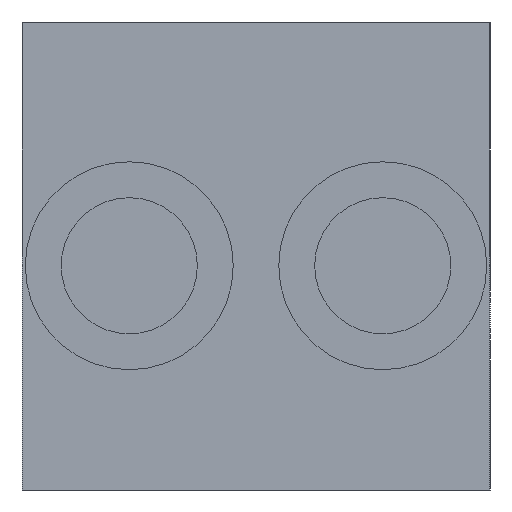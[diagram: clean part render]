
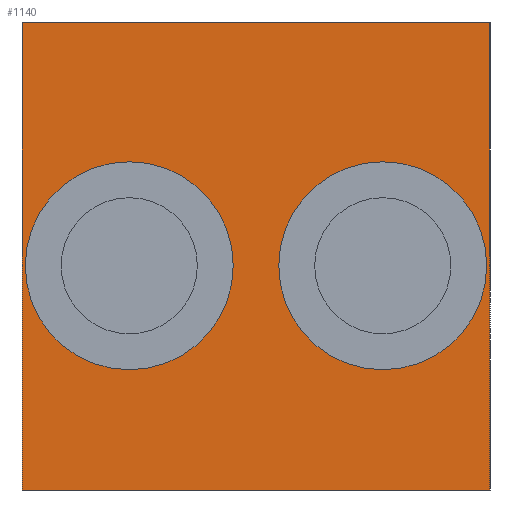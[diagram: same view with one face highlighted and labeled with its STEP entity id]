
A CAD part, left-side view. The second image highlights one B-rep face of the part: STEP entity #1140.
In plain terms, the highlighted planar face has unit normal (-1, 0, 0).
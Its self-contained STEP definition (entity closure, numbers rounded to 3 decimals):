
#1140=ADVANCED_FACE('', (#1150,#1160,#1170), #1180, .T.);
#4220=AXIS2_PLACEMENT_3D('Ax2Pl3d', #4230, #4240, #4250);
#4260=AXIS2_PLACEMENT_3D('Ax2Pl3d', #4270, #4280, #4290);
#4300=AXIS2_PLACEMENT_3D('Ax2Pl3d', #4310, #4320, #4330);
#5400=CARTESIAN_POINT('', (0.,0.,0.));
#5450=CARTESIAN_POINT('', (0.,0.,72.));
#5460=CARTESIAN_POINT('', (0.,0.,72.));
#5590=CARTESIAN_POINT('', (0.,0.,0.));
#5600=CARTESIAN_POINT('', (0.,72.,0.));
#4230=CARTESIAN_POINT('HicPkt', (0.,55.5,34.5));
#5800=CARTESIAN_POINT('', (0.,71.5,34.5));
#4270=CARTESIAN_POINT('HicPkt', (0.,0.,0.));
#5810=CARTESIAN_POINT('', (0.,0.,72.));
#5820=CARTESIAN_POINT('', (0.,72.,72.));
#5830=CARTESIAN_POINT('', (0.,72.,72.));
#4310=CARTESIAN_POINT('HicPkt', (0.,16.5,34.5));
#5840=CARTESIAN_POINT('', (0.,32.5,34.5));
#6270=CIRCLE('Circle', #4220, 16.);
#6280=CIRCLE('Circle', #4300, 16.);
#6470=DIRECTION('', (0.,0.,1.));
#6480=DIRECTION('', (0.,-1.,0.));
#4240=DIRECTION('Axis', (-1.,0.,0.))
;
#4250=DIRECTION('RefDirection', (0.,
0.,-1.));
#4280=DIRECTION('Axis', (-1.,0.,0.))
;
#4290=DIRECTION('RefDirection', (0.,
0.,-1.));
#6510=DIRECTION('', (0.,-1.,0.));
#6520=DIRECTION('', (0.,0.,1.));
#4320=DIRECTION('Axis', (-1.,0.,0.))
;
#4330=DIRECTION('RefDirection', (0.,
0.,-1.));
#6700=EDGE_CURVE('', #6610, #6680, #6710, .T.);
#6960=EDGE_CURVE('', #6970, #6610, #6980, .T.);
#7360=EDGE_CURVE('', #7370, #7370, #6270, .T.);
#7380=EDGE_CURVE('', #7390, #6680, #7400, .T.);
#7410=EDGE_CURVE('', #6970, #7390, #7420, .T.);
#7430=EDGE_CURVE('', #7440, #7440, #6280, .T.);
#8820=EDGE_LOOP('Edge_loop', (#8830,#8840,#8850,#8860));
#8870=EDGE_LOOP('Edge_loop', (#8880));
#8890=EDGE_LOOP('Edge_loop', (#8900));
#1160=FACE_BOUND('', #8870, .T.);
#1170=FACE_BOUND('', #8890, .T.);
#1150=FACE_OUTER_BOUND('Face_outer_bound', #8820, .T.);
#6710=LINE('Line', #5460, #9870);
#6980=LINE('Line', #5590, #9880);
#7400=LINE('Line', #5810, #9910);
#7420=LINE('Line', #5830, #9920);
#8830=ORIENTED_EDGE('', *, *, #6700, .T.);
#8840=ORIENTED_EDGE('', *, *, #7380, .F.);
#8850=ORIENTED_EDGE('', *, *, #7410, .F.);
#8860=ORIENTED_EDGE('', *, *, #6960, .T.);
#8880=ORIENTED_EDGE('', *, *, #7360, .F.);
#8900=ORIENTED_EDGE('', *, *, #7430, .F.);
#1180=PLANE('Plane', #4260);
#9870=VECTOR('', #6470, 72.);
#9880=VECTOR('', #6480, 72.);
#9910=VECTOR('', #6510, 72.);
#9920=VECTOR('', #6520, 72.);
#6610=VERTEX_POINT('', #5400);
#6680=VERTEX_POINT('', #5450);
#6970=VERTEX_POINT('', #5600);
#7370=VERTEX_POINT('', #5800);
#7390=VERTEX_POINT('', #5820);
#7440=VERTEX_POINT('', #5840);
